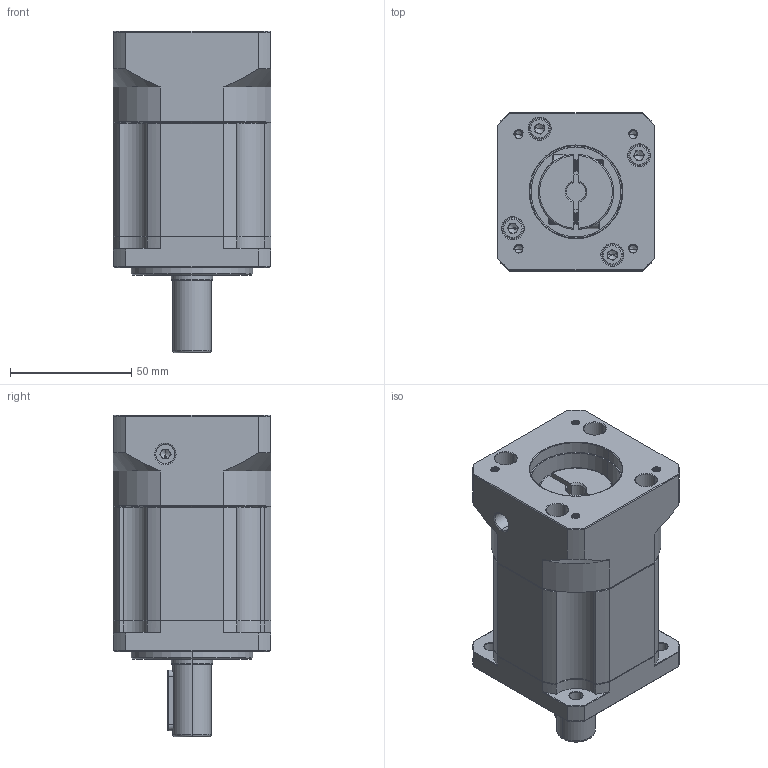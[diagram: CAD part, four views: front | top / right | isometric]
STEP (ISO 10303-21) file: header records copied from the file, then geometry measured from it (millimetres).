
FILE_DESCRIPTION (( 'STEP AP214' ), '1' );
FILE_NAME ('ZB60-D16-L2-8-38.1-47.14X47.14-M4.STEP', '2022-04-16T15:45:11', ( '' ), ( 'Microsoft' ), 'SwSTEP 2.0', 'SolidWorks 2016', '' );
FILE_SCHEMA (( 'AUTOMOTIVE_DESIGN' ));
Length unit declared in the file: millimetre
Products named in the file (1): ZB60-D16-L2-8-38.1-47.14X47.14-M4
Bounding box: 65 x 65 x 132.5 mm (x, y, z)
Volume: 335937.3 mm3; surface area: 58459.4 mm2
Topology: 6 solids, 6 shells, 1876 faces, 4981 edges, 3188 vertices
Faces by surface type: plane 879, cylinder 381, bspline 299, cone 283, torus 34
Entity records: 98923 total; most frequent: CARTESIAN_POINT 34096, ORIENTED_EDGE 9902, DIRECTION 8107, EDGE_CURVE 4951, VERTEX_POINT 3188, VECTOR 3013, LINE 3013, AXIS2_PLACEMENT_3D 2547
